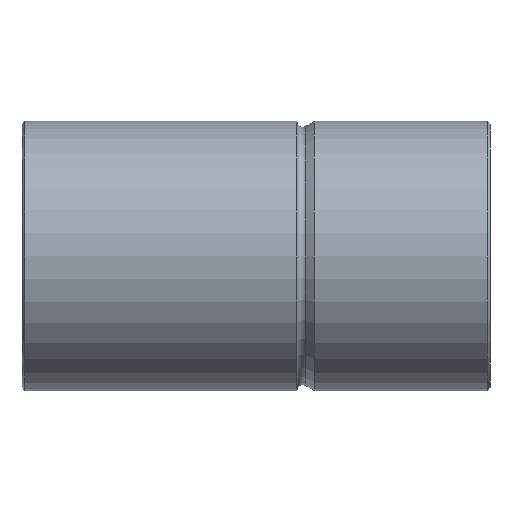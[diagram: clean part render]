
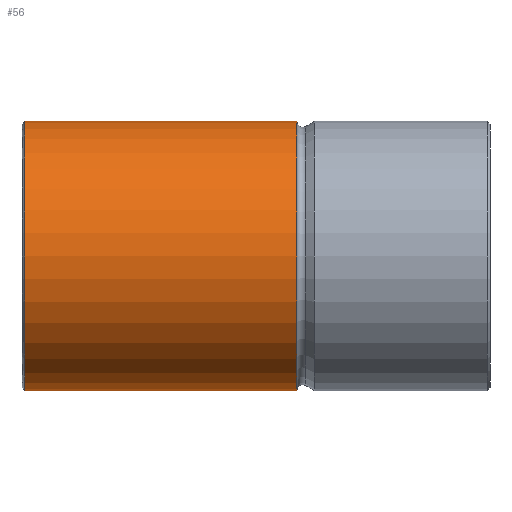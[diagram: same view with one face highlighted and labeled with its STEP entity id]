
A CAD part, front view. The second image highlights one B-rep face of the part: STEP entity #56.
In plain terms, the highlighted cylindrical face has radius 23.02 mm (diameter 46.04 mm), a full revolution.
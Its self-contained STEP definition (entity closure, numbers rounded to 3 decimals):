
#56 = ADVANCED_FACE( '', ( #121, #122, #123 ), #124, .T. );
#121 = FACE_OUTER_BOUND( '', #194, .T. );
#122 = FACE_BOUND( '', #195, .T. );
#123 = FACE_OUTER_BOUND( '', #196, .T. );
#124 = CYLINDRICAL_SURFACE( '', #197, 23.02 );
#194 = EDGE_LOOP( '', ( #277 ) );
#195 = EDGE_LOOP( '', ( #278 ) );
#196 = EDGE_LOOP( '', ( #279 ) );
#197 = AXIS2_PLACEMENT_3D( '', #280, #281, #282 );
#277 = ORIENTED_EDGE( '', *, *, #328, .T. );
#278 = ORIENTED_EDGE( '', *, *, #342, .T. );
#279 = ORIENTED_EDGE( '', *, *, #347, .F. );
#280 = CARTESIAN_POINT( '', ( 0., 0., 0. ) );
#281 = DIRECTION( '', ( -1., 0., 0. ) );
#282 = DIRECTION( '', ( 0., 0., -1. ) );
#328 = EDGE_CURVE( '', #362, #362, #363, .T. );
#342 = EDGE_CURVE( '', #385, #385, #386, .T. );
#347 = EDGE_CURVE( '', #393, #393, #394, .T. );
#362 = VERTEX_POINT( '', #412 );
#363 = CIRCLE( '', #413, 23.02 );
#385 = VERTEX_POINT( '', #486 );
#386 = B_SPLINE_CURVE_WITH_KNOTS( '', 3, ( #487, #488, #489, #490, #491, #492, #493, #494, #495, #496, #497, #498, #499, #500, #501, #502, #503, #504, #505, #506, #507, #508, #509, #510, #511, #512, #513, #514, #515, #516, #517, #518, #519, #520, #521, #522, #523, #524, #525, #526, #527, #528, #529, #530, #531, #532, #533, #534, #535, #536, #537, #538, #539, #540, #541, #542, #543, #544, #545, #546, #547, #548, #549, #550 ), .UNSPECIFIED., .T., .F., ( 2, 2, 2, 2, 2, 2, 2, 2, 2, 2, 2, 2, 2, 2, 2, 2, 2, 2, 2, 2, 2, 2, 2, 2, 2, 2, 2, 2, 2, 2, 2, 2, 2, 2 ), ( -0.001, 0., 0., 0.001, 0.001, 0.002, 0.002, 0.003, 0.003, 0.004, 0.004, 0.005, 0.005, 0.006, 0.006, 0.007, 0.007, 0.008, 0.008, 0.009, 0.009, 0.01, 0.01, 0.011, 0.011, 0.012, 0.012, 0.013, 0.013, 0.014, 0.014, 0.015, 0.016, 0.016 ), .UNSPECIFIED. );
#393 = VERTEX_POINT( '', #557 );
#394 = CIRCLE( '', #558, 23.02 );
#412 = CARTESIAN_POINT( '', ( -79.5, 0., -23.02 ) );
#413 = AXIS2_PLACEMENT_3D( '', #576, #577, #578 );
#486 = CARTESIAN_POINT( '', ( -70., 22.884, -2.5 ) );
#487 = CARTESIAN_POINT( '', ( -70.331, 22.884, -2.5 ) );
#488 = CARTESIAN_POINT( '', ( -69.835, 22.884, -2.5 ) );
#489 = CARTESIAN_POINT( '', ( -69.672, 22.886, -2.484 ) );
#490 = CARTESIAN_POINT( '', ( -69.353, 22.892, -2.42 ) );
#491 = CARTESIAN_POINT( '', ( -69.194, 22.898, -2.372 ) );
#492 = CARTESIAN_POINT( '', ( -68.891, 22.91, -2.247 ) );
#493 = CARTESIAN_POINT( '', ( -68.747, 22.918, -2.17 ) );
#494 = CARTESIAN_POINT( '', ( -68.476, 22.934, -1.988 ) );
#495 = CARTESIAN_POINT( '', ( -68.347, 22.943, -1.883 ) );
#496 = CARTESIAN_POINT( '', ( -68.117, 22.961, -1.652 ) );
#497 = CARTESIAN_POINT( '', ( -68.013, 22.97, -1.527 ) );
#498 = CARTESIAN_POINT( '', ( -67.831, 22.986, -1.253 ) );
#499 = CARTESIAN_POINT( '', ( -67.753, 22.994, -1.108 ) );
#500 = CARTESIAN_POINT( '', ( -67.628, 23.006, -0.807 ) );
#501 = CARTESIAN_POINT( '', ( -67.58, 23.011, -0.65 ) );
#502 = CARTESIAN_POINT( '', ( -67.516, 23.018, -0.327 ) );
#503 = CARTESIAN_POINT( '', ( -67.5, 23.02, -0.165 ) );
#504 = CARTESIAN_POINT( '', ( -67.5, 23.02, 0.162 ) );
#505 = CARTESIAN_POINT( '', ( -67.516, 23.018, 0.328 ) );
#506 = CARTESIAN_POINT( '', ( -67.58, 23.011, 0.648 ) );
#507 = CARTESIAN_POINT( '', ( -67.627, 23.006, 0.804 ) );
#508 = CARTESIAN_POINT( '', ( -67.752, 22.994, 1.107 ) );
#509 = CARTESIAN_POINT( '', ( -67.831, 22.986, 1.253 ) );
#510 = CARTESIAN_POINT( '', ( -68.012, 22.97, 1.524 ) );
#511 = CARTESIAN_POINT( '', ( -68.115, 22.961, 1.65 ) );
#512 = CARTESIAN_POINT( '', ( -68.348, 22.943, 1.884 ) );
#513 = CARTESIAN_POINT( '', ( -68.474, 22.934, 1.987 ) );
#514 = CARTESIAN_POINT( '', ( -68.745, 22.918, 2.168 ) );
#515 = CARTESIAN_POINT( '', ( -68.891, 22.91, 2.247 ) );
#516 = CARTESIAN_POINT( '', ( -69.194, 22.898, 2.372 ) );
#517 = CARTESIAN_POINT( '', ( -69.35, 22.893, 2.419 ) );
#518 = CARTESIAN_POINT( '', ( -69.67, 22.886, 2.484 ) );
#519 = CARTESIAN_POINT( '', ( -69.836, 22.884, 2.5 ) );
#520 = CARTESIAN_POINT( '', ( -70.162, 22.884, 2.5 ) );
#521 = CARTESIAN_POINT( '', ( -70.325, 22.886, 2.484 ) );
#522 = CARTESIAN_POINT( '', ( -70.647, 22.892, 2.42 ) );
#523 = CARTESIAN_POINT( '', ( -70.805, 22.898, 2.372 ) );
#524 = CARTESIAN_POINT( '', ( -71.106, 22.91, 2.248 ) );
#525 = CARTESIAN_POINT( '', ( -71.251, 22.918, 2.17 ) );
#526 = CARTESIAN_POINT( '', ( -71.525, 22.934, 1.988 ) );
#527 = CARTESIAN_POINT( '', ( -71.651, 22.943, 1.885 ) );
#528 = CARTESIAN_POINT( '', ( -71.881, 22.961, 1.654 ) );
#529 = CARTESIAN_POINT( '', ( -71.987, 22.97, 1.526 ) );
#530 = CARTESIAN_POINT( '', ( -72.169, 22.986, 1.254 ) );
#531 = CARTESIAN_POINT( '', ( -72.246, 22.994, 1.111 ) );
#532 = CARTESIAN_POINT( '', ( -72.371, 23.006, 0.808 ) );
#533 = CARTESIAN_POINT( '', ( -72.42, 23.011, 0.65 ) );
#534 = CARTESIAN_POINT( '', ( -72.483, 23.018, 0.33 ) );
#535 = CARTESIAN_POINT( '', ( -72.5, 23.02, 0.168 ) );
#536 = CARTESIAN_POINT( '', ( -72.5, 23.02, -0.163 ) );
#537 = CARTESIAN_POINT( '', ( -72.484, 23.018, -0.326 ) );
#538 = CARTESIAN_POINT( '', ( -72.421, 23.012, -0.645 ) );
#539 = CARTESIAN_POINT( '', ( -72.373, 23.006, -0.804 ) );
#540 = CARTESIAN_POINT( '', ( -72.248, 22.994, -1.107 ) );
#541 = CARTESIAN_POINT( '', ( -72.171, 22.986, -1.251 ) );
#542 = CARTESIAN_POINT( '', ( -71.99, 22.97, -1.522 ) );
#543 = CARTESIAN_POINT( '', ( -71.884, 22.961, -1.651 ) );
#544 = CARTESIAN_POINT( '', ( -71.654, 22.943, -1.882 ) );
#545 = CARTESIAN_POINT( '', ( -71.528, 22.934, -1.985 ) );
#546 = CARTESIAN_POINT( '', ( -71.255, 22.918, -2.168 ) );
#547 = CARTESIAN_POINT( '', ( -71.11, 22.91, -2.246 ) );
#548 = CARTESIAN_POINT( '', ( -70.659, 22.891, -2.433 ) );
#549 = CARTESIAN_POINT( '', ( -70.331, 22.884, -2.5 ) );
#550 = CARTESIAN_POINT( '', ( -69.835, 22.884, -2.5 ) );
#557 = CARTESIAN_POINT( '', ( -33., 0., -23.02 ) );
#558 = AXIS2_PLACEMENT_3D( '', #606, #607, #608 );
#576 = CARTESIAN_POINT( '', ( -79.5, 0., 0. ) );
#577 = DIRECTION( '', ( 1., 0., 0. ) );
#578 = DIRECTION( '', ( 0., 0., -1. ) );
#606 = CARTESIAN_POINT( '', ( -33., 0., 0. ) );
#607 = DIRECTION( '', ( 1., 0., 0. ) );
#608 = DIRECTION( '', ( 0., 0., -1. ) );
